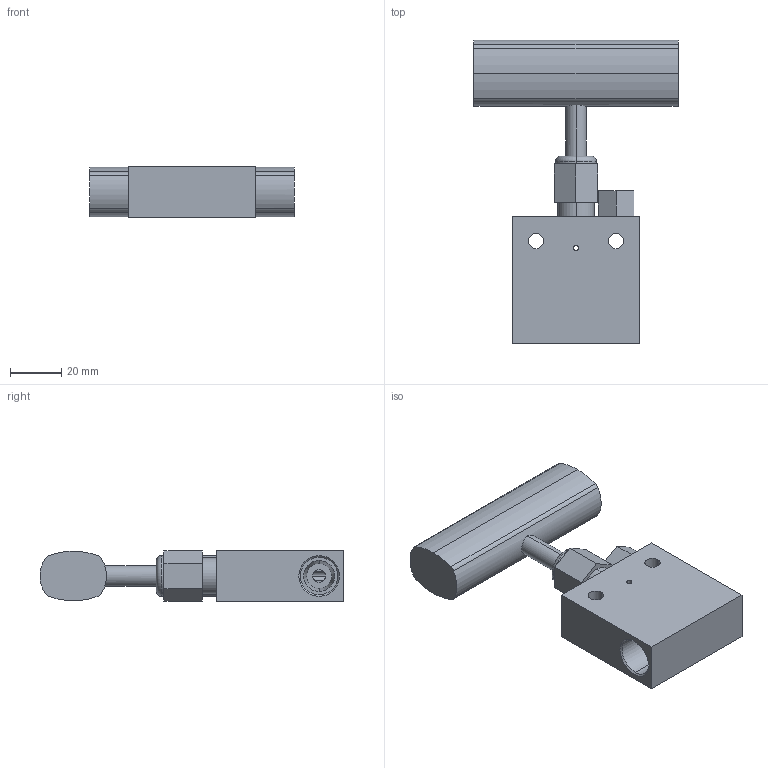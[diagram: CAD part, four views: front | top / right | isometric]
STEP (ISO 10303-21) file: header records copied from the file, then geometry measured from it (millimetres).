
FILE_DESCRIPTION (( 'STEP AP203' ), '1' );
FILE_NAME ('NV15VS06-S-00-00.STEP', '2023-02-23T02:14:27', ( 'USER' ), ( '' ), 'SwSTEP 2.0', 'SolidWorks 2020', '' );
FILE_SCHEMA (( 'CONFIG_CONTROL_DESIGN' ));
Length unit declared in the file: millimetre
Products named in the file (1): NV15VS06-S-00-00
Bounding box: 80 x 119.03 x 20 mm (x, y, z)
Volume: 84856.6 mm3; surface area: 21110.8 mm2
Topology: 1 solids, 1 shells, 88 faces, 209 edges, 134 vertices
Faces by surface type: cylinder 41, plane 33, cone 12, torus 2
Entity records: 2926 total; most frequent: CARTESIAN_POINT 734, DIRECTION 463, ORIENTED_EDGE 418, EDGE_CURVE 209, AXIS2_PLACEMENT_3D 179, VERTEX_POINT 134, EDGE_LOOP 109, VECTOR 105
